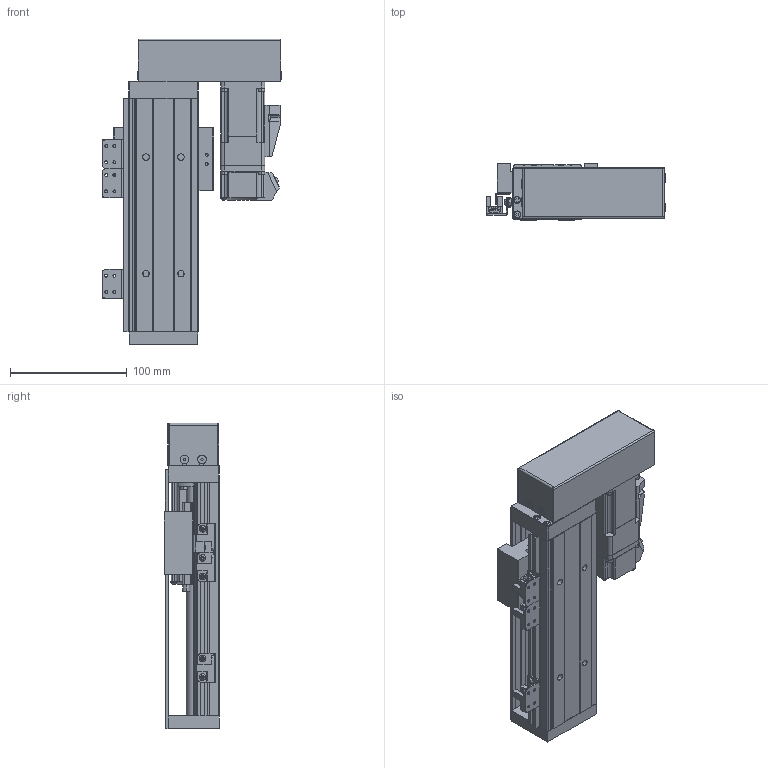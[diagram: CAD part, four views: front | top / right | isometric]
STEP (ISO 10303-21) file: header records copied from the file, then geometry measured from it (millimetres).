
FILE_DESCRIPTION (( 'STEP AP203' ), '1' );
FILE_NAME ('KH60D10C-200A1-H2LCS1.STEP', '2022-06-08T03:55:50', ( '' ), ( '' ), 'SwSTEP 2.0', 'SolidWorks 2016', '' );
FILE_SCHEMA (( 'CONFIG_CONTROL_DESIGN' ));
Length unit declared in the file: millimetre
Products named in the file (70): KK60-02-03; 晦埴芛M3X6蹟隊; 囀鞠褒麥芛蹟隊M3x5; 内六角圆柱头螺钉M3×10; 内六角圆柱头螺钉M3×18; KK60-01-02-XXXX; 蛌諉啣; 鞠褒蹟譫M3; PM-Y65; 侂狟萇儂P10B; KK60-08-01; 錨璃2; 囀鞠褒す埴芛蹟隊M3℅5; KH60-500; KK60-02-02; KK60-02-01-H0_KK60-02-01-H0&H1; KH60D10C-200A1-H2LCS1; KH86-08-(SX674); 216々湍; KK60-04-07; 綴釱; KH60-02-0000-L; KK60-02-01-H0; B-KK60-A1-F0C; KK60-02-04; KK60-01-02-XXXX_KK60-01-02-150
Assembly tree (41 placements, depth 3):
  囀鞠褒麥芛蹟隊M3x5
  晦埴芛M3X6蹟隊
  内六角圆柱头螺钉M3×10
  囀鞠褒麥芛蹟隊M3x5
  内六角圆柱头螺钉M3×18
Bounding box: 153.7 x 48 x 262 mm (x, y, z)
Volume: 593411.4 mm3; surface area: 226207.8 mm2
Topology: 48 solids, 48 shells, 2732 faces, 7084 edges, 4533 vertices
Faces by surface type: plane 1419, cylinder 632, cone 319, bspline 280, torus 70, sphere 12
Entity records: 69773 total; most frequent: CARTESIAN_POINT 16048, ORIENTED_EDGE 10276, DIRECTION 9003, EDGE_CURVE 5138, VERTEX_POINT 3367, VECTOR 3275, LINE 3275, AXIS2_PLACEMENT_3D 2864
